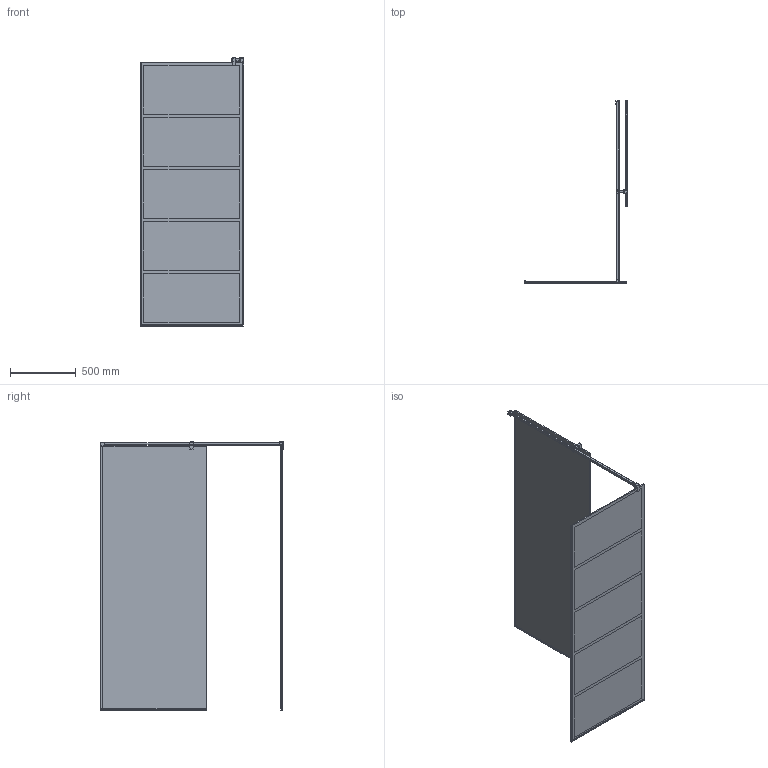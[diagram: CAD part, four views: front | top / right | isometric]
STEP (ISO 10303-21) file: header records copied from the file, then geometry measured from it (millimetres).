
FILE_DESCRIPTION(/* description */ ('Стенка задняя'),/* implementation_level */ '2;1');
FILE_NAME(/* name */ 'D:\7\2\GLASS LINE GK-012BL\GLASS LINE GK-012BL правая модель\GLASS LINE GK-012BL ПРАВАЯ-3D.stp',/* time_stamp */ '2020-07-16T20:35:20+03:00',/* author */ ('User'),/* organization */ (''),/* preprocessor_version */ 'ST-DEVELOPER v15.2',/* originating_system */ 'Autodesk Inventor 2014',/* authorisation */ '');
FILE_SCHEMA (('AUTOMOTIVE_DESIGN { 1 0 10303 214 3 1 1 }'));
Length unit declared in the file: millimetre
Products named in the file (11): Стекло.02 (01) GL; Профиль 13х13 (
стекло 10 мм); Профиль 13х13 (
стекло 10 мм)_2; Стекло.02 (02) GL; Профиль 13х13 (
стекло 10 мм)_3; Профиль 13х13 (
стекло 10 мм)_4; STB-Q RS-MT-00 (труба); STB-Q RS-MT-04L; STB-Q RS-MT-05; STB-Q RS-MT-06; GLASS LINE GK-012BL ПРАВАЯ-3D
Bounding box: 787.5 x 1387.5 x 2034.25 mm (x, y, z)
Volume: 31852246 mm3; surface area: 7066826.5 mm2
Topology: 11 solids, 11 shells, 239 faces, 608 edges, 405 vertices
Faces by surface type: plane 176, cylinder 62, cone 1
Full cylindrical faces by diameter (mm): 4.2 x11, 5.2 x1, 6 x14
Entity records: 6463 total; most frequent: CARTESIAN_POINT 1080, DIRECTION 1058, ORIENTED_EDGE 1002, EDGE_CURVE 501, LINE 404, VECTOR 404, VERTEX_POINT 349, AXIS2_PLACEMENT_3D 327
